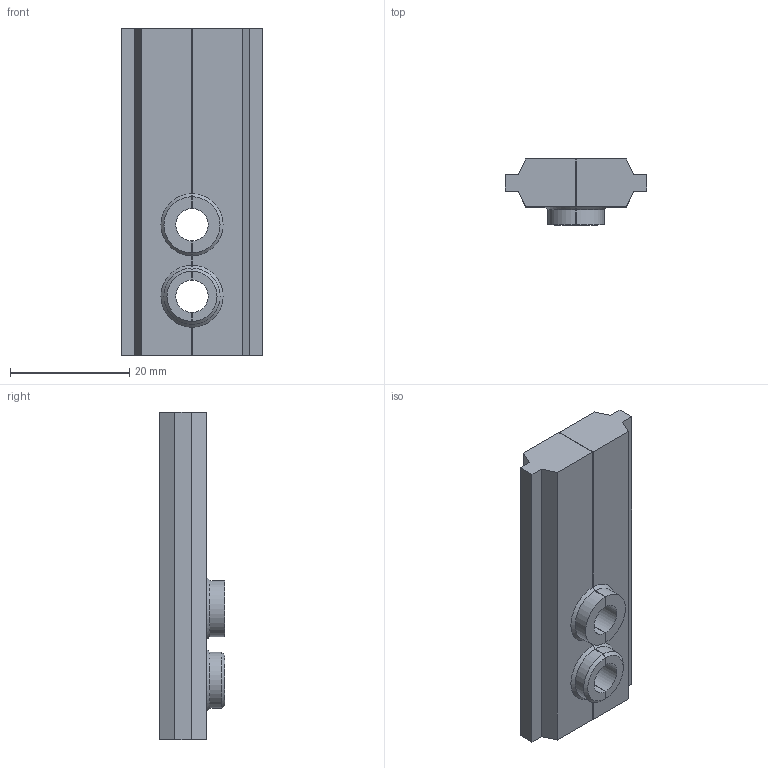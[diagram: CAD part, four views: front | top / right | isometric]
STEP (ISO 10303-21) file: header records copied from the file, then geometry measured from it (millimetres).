
FILE_DESCRIPTION(/* description */ ('STEP AP242','CAx-IF Rec.Pracs.---Representation and Presentation of Product Manufacturing Information (PMI)---4.0---2014-10-13','CAx-IF Rec.Pracs.---3D Tessellated Geometry---0.4---2014-09-14','2;1','CAx-IF Rec.Pracs.---User Defined Attributes---1.5---2016-08-15'),/* implementation_level */ '2;1');
FILE_NAME(/* name */ '691be6800141d2bcb51104af',/* time_stamp */ '2025-11-18T03:22:40Z',/* author */ (''),/* organization */ (''),/* preprocessor_version */ 'ST-DEVELOPER v20',/* originating_system */ 'ONSHAPE BY PTC INC, 1.206',/* authorisation */ ' ');
FILE_SCHEMA (('AP242_MANAGED_MODEL_BASED_3D_ENGINEERING_MIM_LF { 1 0 10303 442 1 1 4 }'));
Length unit declared in the file: metre
Products named in the file (2): Part 1; Part 2
Bounding box: 23.7 x 11 x 55 mm (x, y, z)
Volume: 8698.8 mm3; surface area: 4765.2 mm2
Topology: 2 solids, 2 shells, 46 faces, 126 edges, 84 vertices
Faces by surface type: plane 28, cone 10, cylinder 8
Entity records: 1523 total; most frequent: CARTESIAN_POINT 318, ORIENTED_EDGE 252, DIRECTION 228, EDGE_CURVE 126, VERTEX_POINT 84, LINE 80, VECTOR 80, AXIS2_PLACEMENT_3D 74
